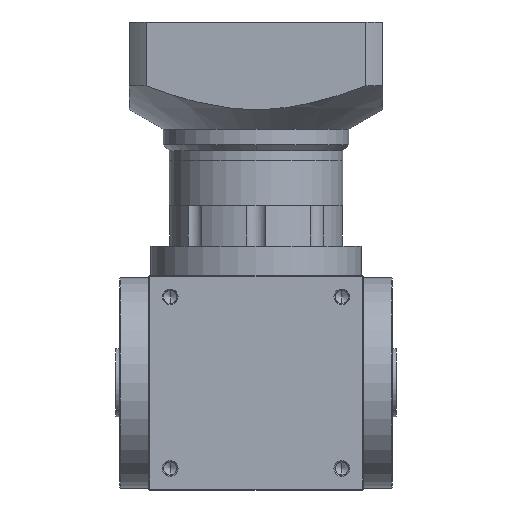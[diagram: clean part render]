
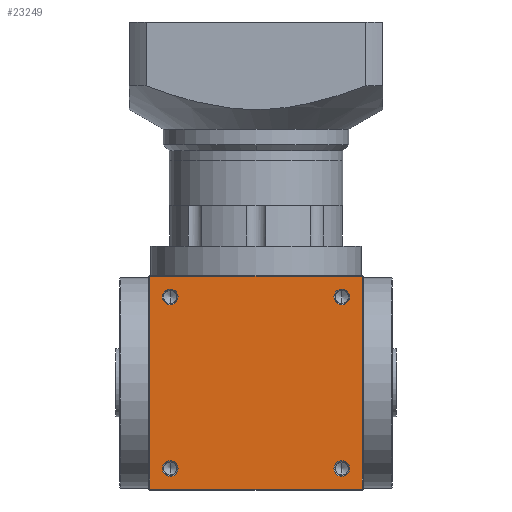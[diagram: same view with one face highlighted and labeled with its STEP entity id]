
A CAD part, front view. The second image highlights one B-rep face of the part: STEP entity #23249.
In plain terms, the highlighted planar face has unit normal (0, -1, 0).
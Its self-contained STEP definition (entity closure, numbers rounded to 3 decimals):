
#998 = AXIS2_PLACEMENT_3D ( 'NONE', #28057, #28002, #27995 ) ;
#1142 = CIRCLE ( 'NONE', #18438, 4.025 ) ;
#1261 = ORIENTED_EDGE ( 'NONE', *, *, #2820, .F. ) ;
#1387 = CARTESIAN_POINT ( 'NONE',  ( -55., -55., 0.5 ) ) ;
#2505 = DIRECTION ( 'NONE',  ( 1., 0., 0. ) ) ;
#2820 = EDGE_CURVE ( 'NONE', #33949, #30945, #6648, .T. ) ;
#3233 = FACE_BOUND ( 'NONE', #14539, .T. ) ;
#3280 = CARTESIAN_POINT ( 'NONE',  ( -54.5, -55., 0.5 ) ) ;
#3394 = VERTEX_POINT ( 'NONE', #53371 ) ;
#3697 = CIRCLE ( 'NONE', #40444, 4.025 ) ;
#3767 = EDGE_CURVE ( 'NONE', #41960, #43797, #47608, .T. ) ;
#3873 = ORIENTED_EDGE ( 'NONE', *, *, #24692, .F. ) ;
#4663 = EDGE_CURVE ( 'NONE', #43869, #33949, #27009, .T. ) ;
#5730 = VERTEX_POINT ( 'NONE', #47320 ) ;
#6410 = CIRCLE ( 'NONE', #10947, 4.025 ) ;
#6648 = LINE ( 'NONE', #24706, #6971 ) ;
#6774 = VERTEX_POINT ( 'NONE', #49310 ) ;
#6897 = EDGE_CURVE ( 'NONE', #5730, #3394, #11617, .T. ) ;
#6971 = VECTOR ( 'NONE', #24781, 1000. ) ;
#7112 = CARTESIAN_POINT ( 'NONE',  ( -54.5, -55., 110. ) ) ;
#7121 = VERTEX_POINT ( 'NONE', #30415 ) ;
#7238 = CIRCLE ( 'NONE', #42146, 4.025 ) ;
#7269 = VERTEX_POINT ( 'NONE', #27837 ) ;
#8427 = ORIENTED_EDGE ( 'NONE', *, *, #25906, .F. ) ;
#8812 = CARTESIAN_POINT ( 'NONE',  ( 44., -55., 99. ) ) ;
#10095 = LINE ( 'NONE', #14508, #11582 ) ;
#10367 = DIRECTION ( 'NONE',  ( -1., 0., 0. ) ) ;
#10947 = AXIS2_PLACEMENT_3D ( 'NONE', #40066, #14744, #44064 ) ;
#11582 = VECTOR ( 'NONE', #43845, 1000. ) ;
#11617 = CIRCLE ( 'NONE', #40791, 4.025 ) ;
#12041 = FACE_BOUND ( 'NONE', #34200, .T. ) ;
#12317 = ORIENTED_EDGE ( 'NONE', *, *, #3767, .F. ) ;
#13314 = DIRECTION ( 'NONE',  ( 1., 0., 0. ) ) ;
#13516 = CIRCLE ( 'NONE', #998, 4.025 ) ;
#13542 = VERTEX_POINT ( 'NONE', #29396 ) ;
#14508 = CARTESIAN_POINT ( 'NONE',  ( 54.5, -55., 110. ) ) ;
#14539 = EDGE_LOOP ( 'NONE', ( #22280, #46281 ) ) ;
#14744 = DIRECTION ( 'NONE',  ( 0., -1., 0. ) ) ;
#15689 = FACE_BOUND ( 'NONE', #40151, .T. ) ;
#15749 = CARTESIAN_POINT ( 'NONE',  ( 48.025, -55., 11. ) ) ;
#15860 = EDGE_CURVE ( 'NONE', #13542, #26007, #13516, .T. ) ;
#15884 = DIRECTION ( 'NONE',  ( 0., -1., 0. ) ) ;
#16591 = ORIENTED_EDGE ( 'NONE', *, *, #4663, .F. ) ;
#16931 = EDGE_LOOP ( 'NONE', ( #1261, #16591, #27474, #3873 ) ) ;
#17064 = DIRECTION ( 'NONE',  ( 0., 0., 1. ) ) ;
#17254 = AXIS2_PLACEMENT_3D ( 'NONE', #46292, #22066, #50438 ) ;
#17626 = PLANE ( 'NONE',  #17254 ) ;
#18438 = AXIS2_PLACEMENT_3D ( 'NONE', #23677, #51790, #28056 ) ;
#19272 = AXIS2_PLACEMENT_3D ( 'NONE', #28568, #28511, #28436 ) ;
#19923 = EDGE_LOOP ( 'NONE', ( #52038, #47496 ) ) ;
#20898 = LINE ( 'NONE', #1387, #21106 ) ;
#21106 = VECTOR ( 'NONE', #10367, 1000. ) ;
#22066 = DIRECTION ( 'NONE',  ( 0., 1., 0. ) ) ;
#22280 = ORIENTED_EDGE ( 'NONE', *, *, #44894, .F. ) ;
#23041 = EDGE_CURVE ( 'NONE', #6774, #7269, #28212, .T. ) ;
#23249 = ADVANCED_FACE ( 'NONE', ( #15689, #3233, #36698, #12041, #42180 ), #17626, .F. ) ;
#23677 = CARTESIAN_POINT ( 'NONE',  ( -44., -55., 99. ) ) ;
#24692 = EDGE_CURVE ( 'NONE', #30945, #7121, #10095, .T. ) ;
#24706 = CARTESIAN_POINT ( 'NONE',  ( -55., -55., 109.5 ) ) ;
#24781 = DIRECTION ( 'NONE',  ( 1., 0., 0. ) ) ;
#25799 = EDGE_CURVE ( 'NONE', #43797, #41960, #6410, .T. ) ;
#25906 = EDGE_CURVE ( 'NONE', #26007, #13542, #7238, .T. ) ;
#26007 = VERTEX_POINT ( 'NONE', #37796 ) ;
#27009 = LINE ( 'NONE', #7112, #27059 ) ;
#27059 = VECTOR ( 'NONE', #17064, 1000. ) ;
#27474 = ORIENTED_EDGE ( 'NONE', *, *, #43652, .F. ) ;
#27837 = CARTESIAN_POINT ( 'NONE',  ( 48.025, -55., 99. ) ) ;
#27995 = DIRECTION ( 'NONE',  ( 1., 0., 0. ) ) ;
#28002 = DIRECTION ( 'NONE',  ( 0., -1., 0. ) ) ;
#28056 = DIRECTION ( 'NONE',  ( 1., 0., 0. ) ) ;
#28057 = CARTESIAN_POINT ( 'NONE',  ( -44., -55., 11. ) ) ;
#28212 = CIRCLE ( 'NONE', #40827, 4.025 ) ;
#28436 = DIRECTION ( 'NONE',  ( 1., 0., 0. ) ) ;
#28511 = DIRECTION ( 'NONE',  ( 0., -1., 0. ) ) ;
#28568 = CARTESIAN_POINT ( 'NONE',  ( 44., -55., 11. ) ) ;
#28921 = DIRECTION ( 'NONE',  ( 0., -1., 0. ) ) ;
#29184 = EDGE_CURVE ( 'NONE', #3394, #5730, #1142, .T. ) ;
#29396 = CARTESIAN_POINT ( 'NONE',  ( -39.975, -55., 11. ) ) ;
#30415 = CARTESIAN_POINT ( 'NONE',  ( 54.5, -55., 0.5 ) ) ;
#30945 = VERTEX_POINT ( 'NONE', #37581 ) ;
#33949 = VERTEX_POINT ( 'NONE', #50887 ) ;
#34200 = EDGE_LOOP ( 'NONE', ( #39104, #8427 ) ) ;
#34813 = ORIENTED_EDGE ( 'NONE', *, *, #25799, .F. ) ;
#36698 = FACE_BOUND ( 'NONE', #19923, .T. ) ;
#36811 = DIRECTION ( 'NONE',  ( 1., 0., 0. ) ) ;
#36854 = DIRECTION ( 'NONE',  ( 0., -1., 0. ) ) ;
#36923 = CARTESIAN_POINT ( 'NONE',  ( -44., -55., 99. ) ) ;
#37581 = CARTESIAN_POINT ( 'NONE',  ( 54.5, -55., 109.5 ) ) ;
#37796 = CARTESIAN_POINT ( 'NONE',  ( -48.025, -55., 11. ) ) ;
#38800 = DIRECTION ( 'NONE',  ( 0., -1., 0. ) ) ;
#39104 = ORIENTED_EDGE ( 'NONE', *, *, #15860, .F. ) ;
#40066 = CARTESIAN_POINT ( 'NONE',  ( 44., -55., 11. ) ) ;
#40151 = EDGE_LOOP ( 'NONE', ( #34813, #12317 ) ) ;
#40444 = AXIS2_PLACEMENT_3D ( 'NONE', #8812, #38800, #13314 ) ;
#40791 = AXIS2_PLACEMENT_3D ( 'NONE', #36923, #36854, #36811 ) ;
#40827 = AXIS2_PLACEMENT_3D ( 'NONE', #52536, #28921, #2505 ) ;
#41102 = CARTESIAN_POINT ( 'NONE',  ( -44., -55., 11. ) ) ;
#41960 = VERTEX_POINT ( 'NONE', #42226 ) ;
#42146 = AXIS2_PLACEMENT_3D ( 'NONE', #41102, #15884, #45093 ) ;
#42180 = FACE_OUTER_BOUND ( 'NONE', #16931, .T. ) ;
#42226 = CARTESIAN_POINT ( 'NONE',  ( 39.975, -55., 11. ) ) ;
#43652 = EDGE_CURVE ( 'NONE', #7121, #43869, #20898, .T. ) ;
#43797 = VERTEX_POINT ( 'NONE', #15749 ) ;
#43845 = DIRECTION ( 'NONE',  ( 0., 0., -1. ) ) ;
#43869 = VERTEX_POINT ( 'NONE', #3280 ) ;
#44064 = DIRECTION ( 'NONE',  ( 1., 0., 0. ) ) ;
#44894 = EDGE_CURVE ( 'NONE', #7269, #6774, #3697, .T. ) ;
#45093 = DIRECTION ( 'NONE',  ( 1., 0., 0. ) ) ;
#46281 = ORIENTED_EDGE ( 'NONE', *, *, #23041, .F. ) ;
#46292 = CARTESIAN_POINT ( 'NONE',  ( -55., -55., 110. ) ) ;
#47320 = CARTESIAN_POINT ( 'NONE',  ( -39.975, -55., 99. ) ) ;
#47496 = ORIENTED_EDGE ( 'NONE', *, *, #29184, .F. ) ;
#47608 = CIRCLE ( 'NONE', #19272, 4.025 ) ;
#49310 = CARTESIAN_POINT ( 'NONE',  ( 39.975, -55., 99. ) ) ;
#50438 = DIRECTION ( 'NONE',  ( 0., 0., 1. ) ) ;
#50887 = CARTESIAN_POINT ( 'NONE',  ( -54.5, -55., 109.5 ) ) ;
#51790 = DIRECTION ( 'NONE',  ( 0., -1., 0. ) ) ;
#52038 = ORIENTED_EDGE ( 'NONE', *, *, #6897, .F. ) ;
#52536 = CARTESIAN_POINT ( 'NONE',  ( 44., -55., 99. ) ) ;
#53371 = CARTESIAN_POINT ( 'NONE',  ( -48.025, -55., 99. ) ) ;
